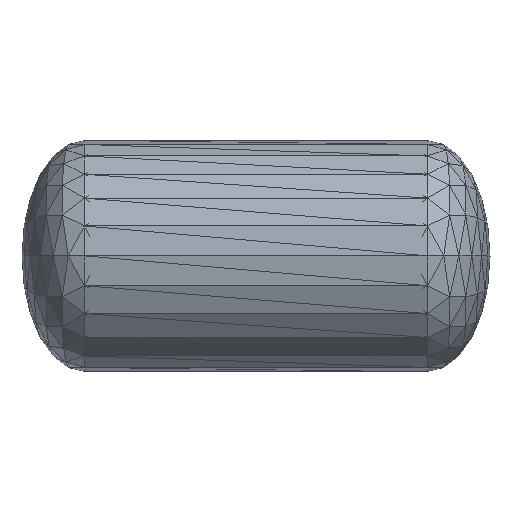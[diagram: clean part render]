
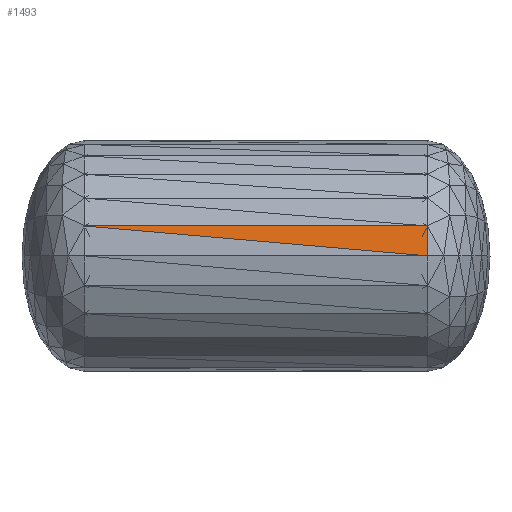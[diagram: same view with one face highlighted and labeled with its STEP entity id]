
A CAD part, top view. The second image highlights one B-rep face of the part: STEP entity #1493.
In plain terms, the highlighted planar face has unit normal (0, -0.13, -0.992).
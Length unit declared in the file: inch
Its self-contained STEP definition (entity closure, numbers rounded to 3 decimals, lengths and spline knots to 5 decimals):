
#1011=CARTESIAN_POINT('',(0.22003,0.03823,0.38292));
#1012=VERTEX_POINT('',#1011);
#1255=CARTESIAN_POINT('',(0.22003,-0.00008,0.38795));
#1256=VERTEX_POINT('',#1255);
#1257=CARTESIAN_POINT('',(0.22003,0.03823,0.38292));
#1258=DIRECTION('',(0.,-0.991,0.13));
#1259=VECTOR('',#1258,0.03863);
#1260=LINE('',#1257,#1259);
#1261=EDGE_CURVE('',#1012,#1256,#1260,.T.);
#1439=CARTESIAN_POINT('',(-0.21997,0.03823,0.38301));
#1440=VERTEX_POINT('',#1439);
#1447=CARTESIAN_POINT('',(0.22003,0.03823,0.38292));
#1448=DIRECTION('',(-1.,0.,0.));
#1449=VECTOR('',#1448,0.44);
#1450=LINE('',#1447,#1449);
#1451=EDGE_CURVE('',#1012,#1440,#1450,.T.);
#1474=CARTESIAN_POINT('',(-0.21997,0.03823,0.38301));
#1475=DIRECTION('',(0.996,-0.087,0.011));
#1476=VECTOR('',#1475,0.44169);
#1477=LINE('',#1474,#1476);
#1478=EDGE_CURVE('',#1440,#1256,#1477,.T.);
#1483=CARTESIAN_POINT('',(-0.21997,0.03823,0.38301));
#1484=DIRECTION('',(0.,0.13,0.991));
#1485=DIRECTION('',(1.,0.,0.));
#1486=AXIS2_PLACEMENT_3D('',#1483,#1484,#1485);
#1487=PLANE('',#1486);
#1488=ORIENTED_EDGE('',*,*,#1451,.F.);
#1489=ORIENTED_EDGE('',*,*,#1261,.T.);
#1490=ORIENTED_EDGE('',*,*,#1478,.F.);
#1491=EDGE_LOOP('',(#1488,#1489,#1490));
#1492=FACE_BOUND('',#1491,.T.);
#1493=ADVANCED_FACE('',(#1492),#1487,.F.);
